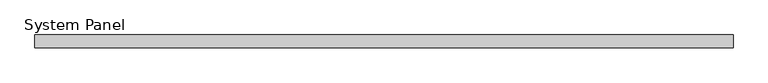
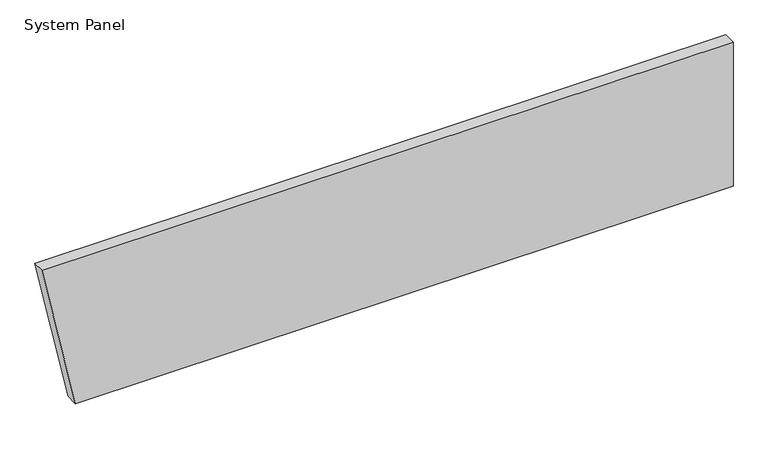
"""IFC4 building model written with IfcOpenShell, lengths in millimetres: plate geometry, System Panel : Equitilt 100mm Horizontal - Plain RHEA - MW."""

from ifc_helpers import new_model, si_unit, frame, origin, place, context, project, spatial, polyline, outline, extrude, source, transform, mapped, element, save


def system_panel_68652501(model_context):
    return source(origin(), model_context, "Body", "SweptSolid", [
        extrude(outline(polyline([(0.0, -2459.5641691), (0.0, 2720.4358309), (1200.0, 2720.4358309), (1200.0, -2720.4358309), (0.0, -2459.5641691)])), frame((0.0, -100.0, 0.0), z_axis=(0.0, 1.0, 0.0), x_axis=(0.0, 0.0, 1.0)), (0.0, 0.0, 1.0), 100.0),
    ])


if __name__ == "__main__":
    model = new_model("IFC4")
    model_context = context("Model", 3, world=origin())
    ifc_project = project(units=[si_unit("LENGTHUNIT", "METRE", prefix="MILLI")], contexts=[model_context])
    site = spatial("IfcSite", under=ifc_project)
    building = spatial("IfcBuilding", under=site)
    placement = place(None, origin())
    system_panel_shape = system_panel_68652501(model_context)
    element("IfcPlate", 1, ObjectType="System Panel : Equitilt 100mm Horizontal - Plain RHEA - MW", at=placement, inside=building, context=model_context, shape_type="MappedRepresentation", body=[
        mapped(system_panel_shape, transform((0.0, 0.0, 0.0), x_axis=(1.0, 0.0, 0.0), y_axis=(0.0, 1.0, 0.0), z_axis=(0.0, 0.0, 1.0))),
    ])
    save(model, "model.ifc")
